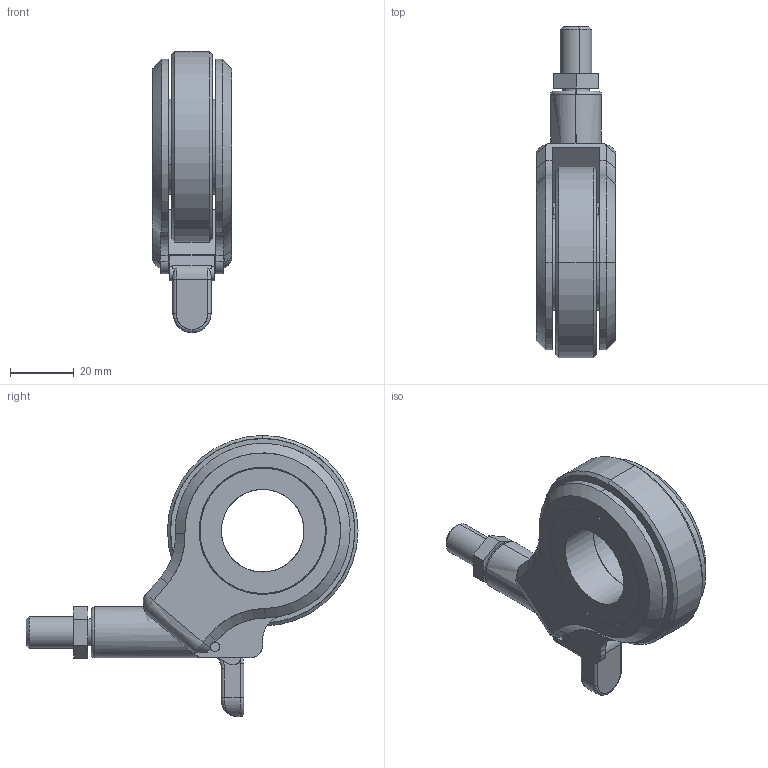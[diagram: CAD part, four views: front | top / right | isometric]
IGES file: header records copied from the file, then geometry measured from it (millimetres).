
Start section: SolidWorks IGES file using analytic representation for surfaces
Bounding box: 25 x 104.5 x 88.5 mm (x, y, z)
Surface area: 29373.1 mm2 (no closed solid volume)
Topology: 0 solids, 0 shells, 157 faces, 2861 edges, 2861 vertices
Faces by surface type: revolution 83, bspline 74
